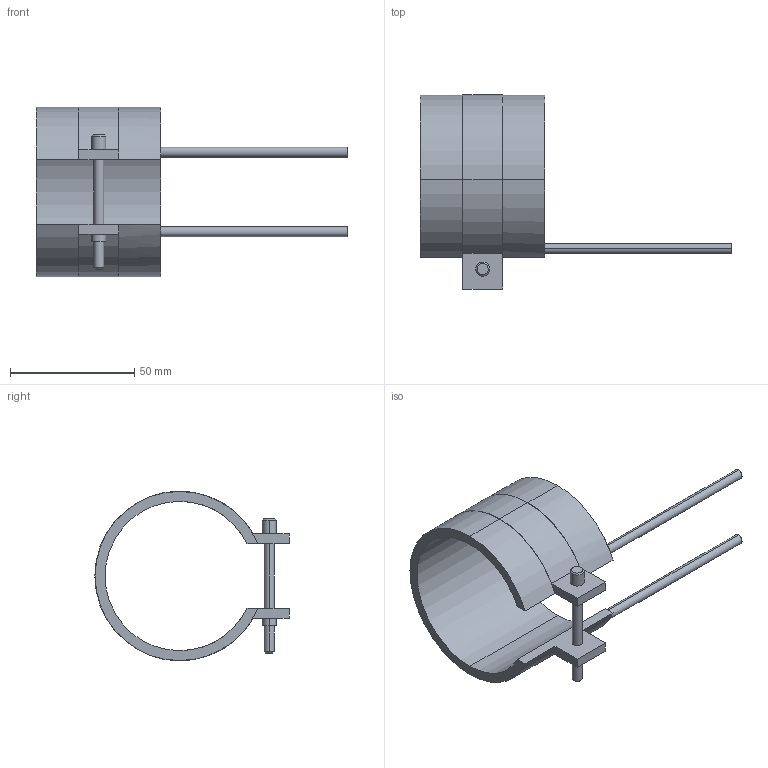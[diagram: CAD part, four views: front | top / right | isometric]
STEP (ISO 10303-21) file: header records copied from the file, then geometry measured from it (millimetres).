
FILE_DESCRIPTION(('CATIA V5 STEP Exchange'),'2;1');
FILE_NAME('C:\Users\Utente\Desktop\IO LAVORO\3D X SITO CF\X SITO\PLASTICA\RF2\14060050.stp','2021-03-31T12:48:29+00:00',('none'),('none'),'CATIA Version 5 Release 20 GA (IN-10)','CATIA V5 STEP AP203','none');
FILE_SCHEMA(('CONFIG_CONTROL_DESIGN'));
Length unit declared in the file: millimetre
Products named in the file (1): 14060050
Bounding box: 125 x 78.1 x 68.2 mm (x, y, z)
Volume: 39447.8 mm3; surface area: 22846.6 mm2
Topology: 1 solids, 1 shells, 45 faces, 116 edges, 76 vertices
Faces by surface type: cylinder 24, plane 17, cone 4
Entity records: 1406 total; most frequent: CARTESIAN_POINT 280, ORIENTED_EDGE 232, DIRECTION 196, EDGE_CURVE 116, AXIS2_PLACEMENT_3D 104, VERTEX_POINT 76, CIRCLE 62, VECTOR 52
